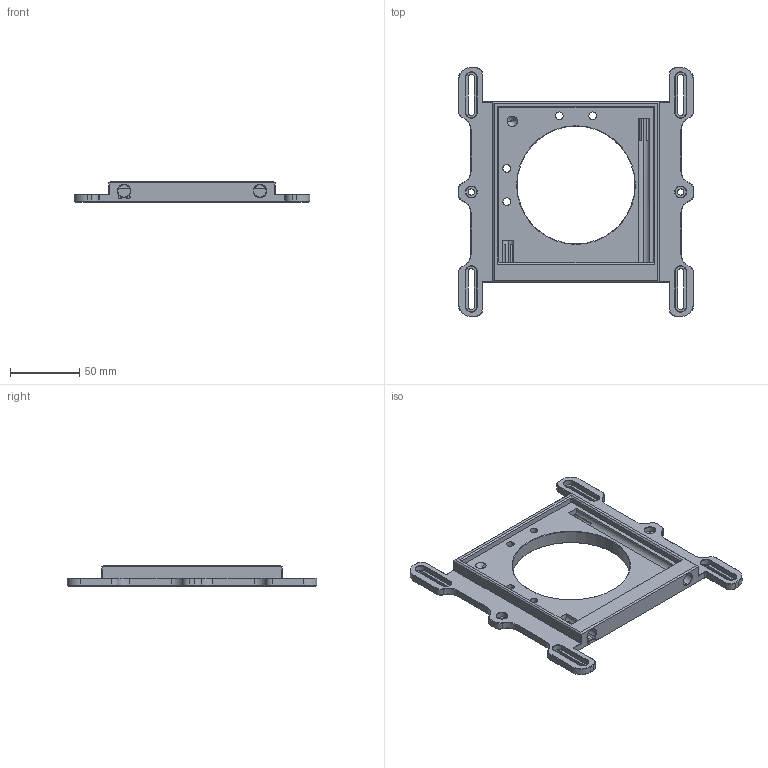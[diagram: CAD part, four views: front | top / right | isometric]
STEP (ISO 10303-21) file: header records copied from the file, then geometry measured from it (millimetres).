
FILE_DESCRIPTION (( 'STEP AP203' ), '1' );
FILE_NAME ('三英寸定板第一版.STEP', '2026-10-12T00:57:07', ( '' ), ( '' ), 'SwSTEP 2.0', 'SolidWorks 2024', '' );
FILE_SCHEMA (( 'CONFIG_CONTROL_DESIGN' ));
Length unit declared in the file: millimetre
Products named in the file (1): 三英寸定板第一版
Bounding box: 170 x 180 x 15 mm (x, y, z)
Volume: 138163.6 mm3; surface area: 49844.1 mm2
Topology: 1 solids, 1 shells, 336 faces, 839 edges, 505 vertices
Faces by surface type: plane 155, cone 98, cylinder 83
Entity records: 10018 total; most frequent: DIRECTION 1775, CARTESIAN_POINT 1763, ORIENTED_EDGE 1674, EDGE_CURVE 837, AXIS2_PLACEMENT_3D 629, LINE 517, VECTOR 517, VERTEX_POINT 505
